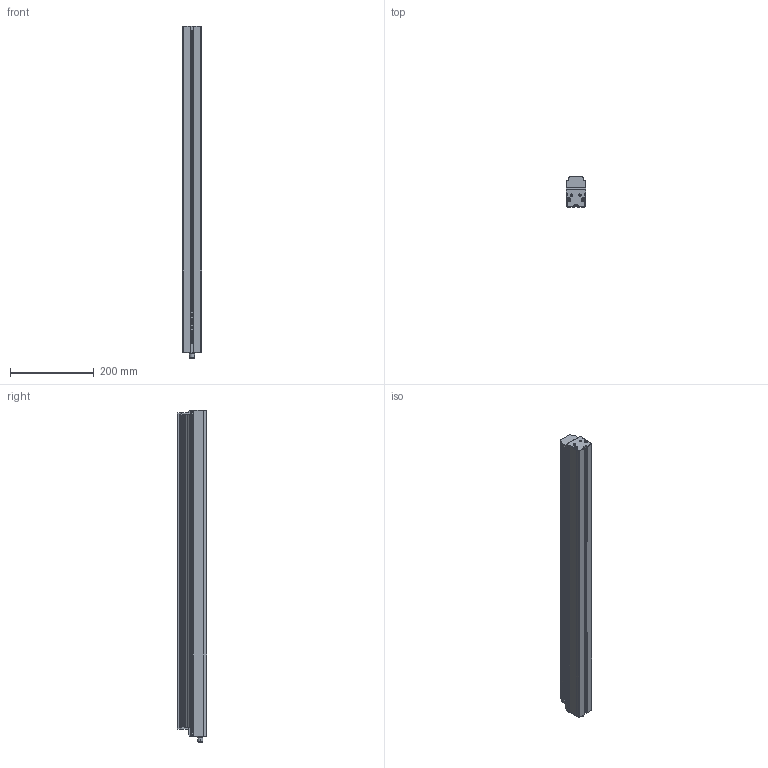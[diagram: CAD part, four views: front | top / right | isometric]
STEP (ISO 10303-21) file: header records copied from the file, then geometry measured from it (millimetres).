
FILE_DESCRIPTION (( 'STEP AP214' ), '1' );
FILE_NAME ('ELINE-EC-750-xxx-xx_CLIENT.STEP', '2026-06-08T12:09:22', ( '' ), ( '' ), 'SwSTEP 2.0', 'SolidWorks 2025', '' );
FILE_SCHEMA (( 'AUTOMOTIVE_DESIGN' ));
Length unit declared in the file: millimetre
Products named in the file (3): 1-X2014-01-3-A_1; ELINE-EC-750-xxx-xx_CLIENT; ELINE-EC-xxx-xxx-xx_CLIENT_750
Assembly tree (5 placements, depth 2):
  ELINE-EC-750-xxx-xx_CLIENT
    ELINE-EC-xxx-xxx-xx_CLIENT_750
    1-X2014-01-3-A_1  x4
Bounding box: 47.7 x 70.9 x 795.05 mm (x, y, z)
Volume: 2193496.9 mm3; surface area: 212487.6 mm2
Topology: 5 solids, 5 shells, 980 faces, 2547 edges, 1643 vertices
Faces by surface type: plane 460, cylinder 294, bspline 140, torus 64, cone 18, sphere 4
Entity records: 32588 total; most frequent: CARTESIAN_POINT 10871, ORIENTED_EDGE 4684, DIRECTION 4136, EDGE_CURVE 2342, VERTEX_POINT 1518, AXIS2_PLACEMENT_3D 1410, LINE 1316, VECTOR 1316
